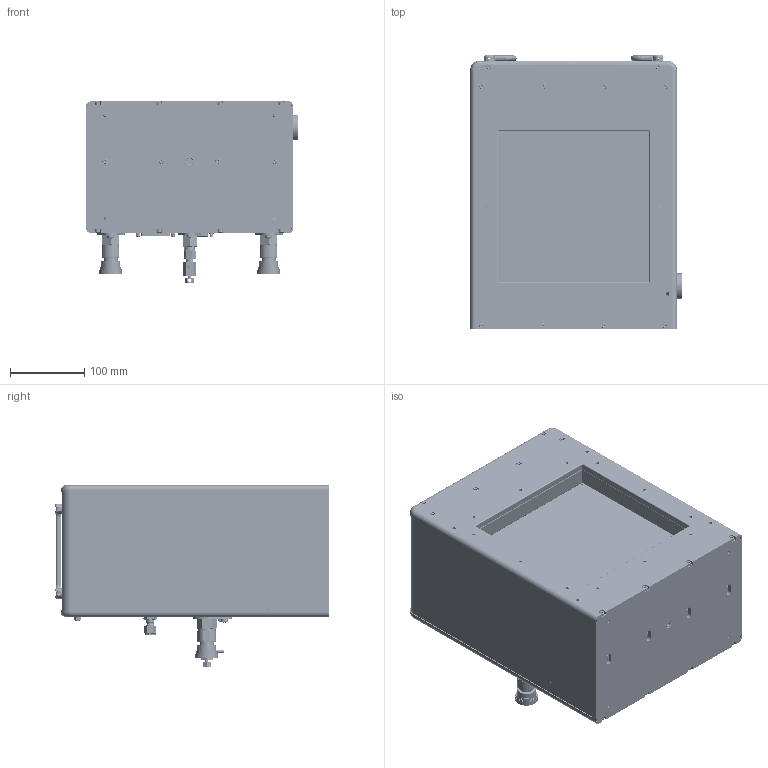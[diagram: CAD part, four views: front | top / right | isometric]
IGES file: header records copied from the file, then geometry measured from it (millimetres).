
Start section: SolidWorks IGES file using analytic representation for surfaces
Global section: file name: X:\ECO_SUB\052324\319-000-741\319-000-741_A.IGS; native system: SolidWorks 2013; preprocessor: SolidWorks 2013; author: doug; date: 140925.102800; units: inch
Bounding box: 285.75 x 369.96 x 244.86 mm (x, y, z)
Surface area: 1081779.7 mm2 (no closed solid volume)
Topology: 0 solids, 0 shells, 6465 faces, 75316 edges, 75236 vertices
Faces by surface type: bspline 4387, revolution 2078
